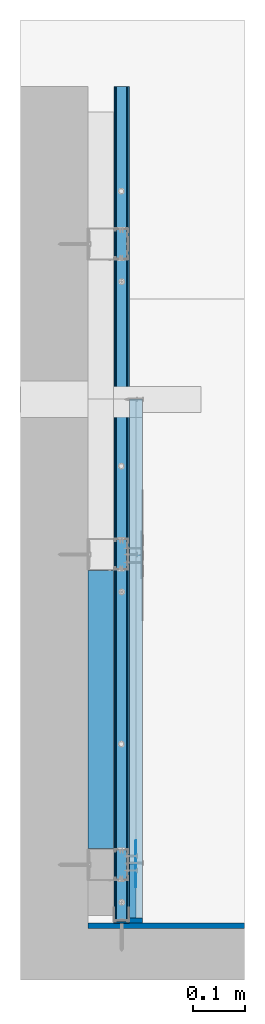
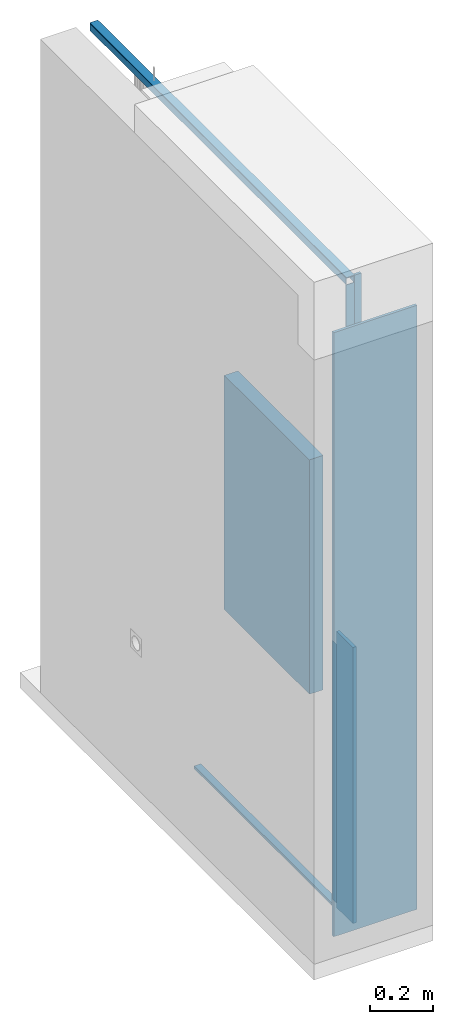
# One storey, part 2 of 61: 9 walls.
"""IFC2X3 building model written with IfcOpenShell, lengths in millimetres."""

from ifc_helpers import new_model, si_unit, frame, origin_with_axes, place, context, subcontext, project, spatial, faceted_brep, material, type_object, element, save


model = new_model("IFC2X3")

# Units and contexts
model_context = context("Model", 3, world=origin_with_axes())
body_context = subcontext(model_context, "Body", "Model", "MODEL_VIEW")
ifc_project = project(units=[si_unit("LENGTHUNIT", "METRE", prefix="MILLI"), si_unit("AREAUNIT", "SQUARE_METRE"), si_unit("VOLUMEUNIT", "CUBIC_METRE")], contexts=[model_context])

# Site, building, storey
site_placement = place(None, frame((2152.1410261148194, -2015.0250894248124, 57.61556563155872), z_axis=(0.0, 0.0, 1.0), x_axis=(-1.1102230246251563e-16, 1.0, 0.0)))
site = spatial("IfcSite", under=ifc_project, at=site_placement, Name="Default Site", CompositionType="ELEMENT")
building_placement = place(site_placement, origin_with_axes())
building = spatial("IfcBuilding", under=site, at=building_placement, Name="Default Building", CompositionType="ELEMENT")
storey_placement = place(building_placement, origin_with_axes())
storey = spatial("IfcBuildingStorey", under=building, at=storey_placement, Name="Default Building Storey", CompositionType="ELEMENT", Elevation=57.61556563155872)

# Walls
ifc_material_1 = material(Name="Undefined13")
wall_type_1 = type_object("IfcWallType", Name="Taśma uszczelniająca piankowa RIGIPS#3", PredefinedType="NOTDEFINED")
wall_1_placement = place(storey_placement, frame((5610.165077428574, 472.86029412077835, 2631.359020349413), z_axis=(6.092619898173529e-14, 6.866451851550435e-13, -1.0), x_axis=(-1.0, -2.0134422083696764e-15, -6.092619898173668e-14)))
element("IfcWall", 1, at=wall_1_placement, inside=storey, type_object=wall_type_1, material=ifc_material_1, Name="Taśma uszczelniająca piankowa RIGIPS", context=body_context, shape_type="Brep", body=[
    faceted_brep([(1867.1244382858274, 1498.965978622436, 113.97500336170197), (1867.1244382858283, 1498.9659786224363, 110.9749972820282), (1867.1244382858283, 1468.966007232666, 110.9749972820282), (1867.1244382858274, 1468.9660072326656, 113.97500336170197), (3487.5264937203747, 1498.9659786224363, 110.9749972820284), (3487.5264937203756, 1498.965978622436, 113.97500336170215), (3487.5264937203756, 1468.9660072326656, 113.97500336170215), (3487.5264937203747, 1468.9660072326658, 110.9749972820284)], [[[0, 1, 2, 3]], [[4, 5, 6, 7]], [[5, 0, 3, 6]], [[6, 3, 2, 7]], [[7, 2, 1, 4]], [[4, 1, 0, 5]]]),
])
ifc_material_2 = material(Name="M04_Stone_Frost")
wall_type_2 = type_object("IfcWallType", Name="Ściana#1", PredefinedType="NOTDEFINED")
wall_2_placement = place(storey_placement, frame((2128.0250889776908, 2049.1410261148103, 2536.3944176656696), z_axis=(-1.0, 7.216449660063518e-16, 8.326672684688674e-17), x_axis=(8.326672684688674e-17, -4.622231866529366e-32, 1.0)))
element("IfcWall", 2, at=wall_2_placement, inside=storey, type_object=wall_type_2, material=ifc_material_2, Name="Ściana", context=body_context, shape_type="Brep", body=[
    faceted_brep([(-205.99998329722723, -27.00014305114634, 3.0000004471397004), (-205.99998329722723, -27.00014305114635, 12.999999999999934), (-205.99998329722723, -330.0000000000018, 12.99999999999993), (-205.99998329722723, -330.0000000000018, 3.0000004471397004), (-2534.0103917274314, -27.00014305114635, 12.999999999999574), (-2534.0103917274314, -27.00014305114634, 3.000000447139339), (-2534.0103917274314, -330.0000000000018, 3.0000004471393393), (-2534.0103917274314, -330.0000000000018, 12.999999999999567)], [[[0, 1, 2, 3]], [[4, 5, 6, 7]], [[1, 0, 5, 4]], [[2, 1, 4, 7]], [[3, 2, 7, 6]], [[0, 3, 6, 5]]]),
])
wall_type_3 = type_object("IfcWallType", Name="Taśma uszczelniająca piankowa RIGIPS#4", PredefinedType="NOTDEFINED")
wall_3_placement = place(storey_placement, frame((2014.0500912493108, 472.8602941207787, 3492.910522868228), z_axis=(1.0, 6.860037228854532e-13, 6.150635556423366e-14), x_axis=(6.150635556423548e-14, -2.646298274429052e-15, -1.0)))
element("IfcWall", 3, at=wall_3_placement, inside=storey, type_object=wall_type_3, material=ifc_material_1, Name="Taśma uszczelniająca piankowa RIGIPS", context=body_context, shape_type="Brep", body=[
    faceted_brep([(1002.5265009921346, 1498.9659786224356, 113.97500336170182), (1002.5265009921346, 1498.9659786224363, 110.97499728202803), (1002.526500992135, 1468.9660072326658, 110.97499728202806), (1002.5265009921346, 1468.966007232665, 113.97500336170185), (3487.5264937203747, 1498.9659786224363, 110.97499728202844), (3487.5264937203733, 1498.9659786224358, 113.97500336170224), (3487.526493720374, 1468.9660072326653, 113.97500336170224), (3487.5264937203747, 1468.9660072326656, 110.97499728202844)], [[[0, 1, 2, 3]], [[4, 5, 6, 7]], [[5, 0, 3, 6]], [[6, 3, 2, 7]], [[7, 2, 1, 4]], [[4, 1, 0, 5]]]),
])
ifc_material_3 = material(Name="Undefined9")
wall_type_4 = type_object("IfcWallType", Name="Profil RIGIPS UD 30 GypSerra®/Ultrastil®#1", PredefinedType="NOTDEFINED")
wall_4_placement = place(storey_placement, frame((5248.130911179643, 472.86020596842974, 2631.3590203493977), z_axis=(6.092619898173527e-14, 6.866451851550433e-13, -1.0), x_axis=(-1.0, -2.0134422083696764e-15, -6.092619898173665e-14)))
element("IfcWall", 4, at=wall_4_placement, inside=storey, type_object=wall_type_4, material=ifc_material_3, Name="Profil RIGIPS UD 30 GypSerra®/Ultrastil®", context=body_context, shape_type="Brep", body=[
    faceted_brep([(3123.1058226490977, 1469.9159860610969, 140.97499847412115), (3123.1058226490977, 1469.3660736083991, 140.97499847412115), (3123.105822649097, 1469.3660736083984, 114.77500200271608), (3123.1058226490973, 1469.3758487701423, 114.64985460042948), (3123.105822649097, 1469.4051742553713, 114.52778428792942), (3123.105822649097, 1469.4532155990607, 114.41180855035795), (3123.105822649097, 1469.5187807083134, 114.30477350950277), (3123.105822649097, 1469.6003198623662, 114.20931667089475), (3123.1058226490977, 1469.6958065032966, 114.12778496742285), (3123.1058226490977, 1469.8028564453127, 114.06219750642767), (3123.1058226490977, 1469.9188470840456, 114.01415616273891), (3123.1058226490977, 1470.0409173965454, 113.98485302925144), (3123.1058226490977, 1470.166087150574, 113.97500336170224), (3123.1058226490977, 1472.015976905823, 113.97500336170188), (3123.1058226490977, 1472.1635580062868, 113.98871988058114), (3123.1058226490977, 1472.3060131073, 114.02940750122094), (3123.1058226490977, 1472.438573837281, 114.09565806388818), (3123.105822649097, 1472.5565910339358, 114.18521404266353), (3123.1058226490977, 1472.6560115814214, 114.29499834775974), (3123.1058226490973, 1473.676085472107, 115.6549975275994), (3123.1058226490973, 1473.7755060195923, 115.76478183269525), (3123.1058226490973, 1473.8935232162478, 115.85433781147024), (3123.1058226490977, 1474.026083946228, 115.92059582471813), (3123.1058226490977, 1474.1685390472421, 115.96128344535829), (3123.1058226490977, 1474.3160009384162, 115.97499996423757), (3123.1058226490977, 1493.6159849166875, 115.9749999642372), (3123.1058226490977, 1493.7635660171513, 115.96128344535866), (3123.1058226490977, 1493.9060211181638, 115.92059582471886), (3123.1058226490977, 1494.0385818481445, 115.85433781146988), (3123.1058226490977, 1494.1565990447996, 115.7647818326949), (3123.1058226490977, 1494.256019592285, 115.65499752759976), (3123.1058226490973, 1495.2759742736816, 114.29499834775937), (3123.1058226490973, 1495.3755140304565, 114.1852140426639), (3123.1058226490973, 1495.4935312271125, 114.09565806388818), (3123.1058226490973, 1495.6260919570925, 114.02940750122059), (3123.1058226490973, 1495.7685470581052, 113.98871988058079), (3123.1058226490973, 1495.91600894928, 113.97500336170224), (3123.1058226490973, 1497.7660179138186, 113.97500336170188), (3123.1058226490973, 1497.8911876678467, 113.98485302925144), (3123.1058226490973, 1498.0132579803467, 114.01415616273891), (3123.1058226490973, 1498.1292486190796, 114.06219750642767), (3123.1058226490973, 1498.2362985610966, 114.12778496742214), (3123.1058226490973, 1498.331665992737, 114.20931667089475), (3123.1058226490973, 1498.4132051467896, 114.30477350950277), (3123.1058226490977, 1498.4788894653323, 114.41180855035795), (3123.1058226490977, 1498.5269308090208, 114.52778428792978), (3123.1058226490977, 1498.5561370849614, 114.64985460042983), (3123.1058226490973, 1498.5660314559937, 114.77500200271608), (3123.1058226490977, 1498.5660314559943, 140.97499847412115), (3123.1058226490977, 1498.0159997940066, 140.97499847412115), (3123.1058226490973, 1498.0159997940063, 114.77500200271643), (3123.1058226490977, 1498.012900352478, 114.73589390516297), (3123.1058226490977, 1498.0038404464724, 114.69774693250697), (3123.1058226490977, 1497.9888200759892, 114.66149985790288), (3123.1058226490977, 1497.9683160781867, 114.62805420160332), (3123.1058226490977, 1497.9428052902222, 114.59822207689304), (3123.1058226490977, 1497.9130029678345, 114.57274854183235), (3123.1058226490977, 1497.8795051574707, 114.55225199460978), (3123.1058226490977, 1497.8432655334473, 114.53723907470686), (3123.1058226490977, 1497.805118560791, 114.52807486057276), (3123.1058226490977, 1497.7660179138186, 114.52499777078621), (3123.1058226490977, 1495.91600894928, 114.52499777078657), (3123.1058226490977, 1495.8698749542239, 114.5292893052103), (3123.1058226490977, 1495.8254098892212, 114.54199999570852), (3123.1058226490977, 1495.784044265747, 114.5627051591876), (3123.1058226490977, 1495.7470893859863, 114.59068953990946), (3123.1058226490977, 1495.7159757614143, 114.62499946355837), (3123.1058226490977, 1494.6960210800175, 115.9849986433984), (3123.1058226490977, 1494.5281744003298, 116.17025732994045), (3123.1058226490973, 1494.3289756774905, 116.32138490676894), (3123.1058226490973, 1494.105339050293, 116.43319576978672), (3123.1058226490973, 1493.8650131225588, 116.5018528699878), (3123.1058226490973, 1493.615984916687, 116.52500182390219), (3123.1058226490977, 1474.316000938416, 116.52500182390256), (3123.1058226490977, 1474.0670919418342, 116.50185286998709), (3123.1058226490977, 1473.8266468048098, 116.43319576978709), (3123.1058226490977, 1473.6031293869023, 116.32138490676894), (3123.1058226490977, 1473.403930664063, 116.17025732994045), (3123.1058226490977, 1473.236083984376, 115.9849986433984), (3123.105822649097, 1472.2160100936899, 114.62499946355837), (3123.105822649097, 1472.1848964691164, 114.59068953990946), (3123.105822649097, 1472.1480607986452, 114.5627051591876), (3123.105822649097, 1472.1066951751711, 114.54199999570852), (3123.105822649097, 1472.0621109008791, 114.52928930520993), (3123.105822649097, 1472.015976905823, 114.52499777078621), (3123.105822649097, 1470.166087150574, 114.52499777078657), (3123.105822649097, 1470.1268672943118, 114.52807486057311), (3123.105822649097, 1470.0887203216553, 114.53723907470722), (3123.105822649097, 1470.0524806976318, 114.55225199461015), (3123.105822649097, 1470.0191020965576, 114.572748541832), (3123.105822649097, 1469.98929977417, 114.59822207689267), (3123.1058226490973, 1469.9637889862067, 114.62805420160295), (3123.1058226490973, 1469.9432849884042, 114.66149985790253), (3123.1058226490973, 1469.9282646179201, 114.6977469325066), (3123.1058226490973, 1469.919085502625, 114.73589390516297), (3123.105822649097, 1469.9159860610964, 114.77500200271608), (1505.0902720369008, 1469.3660736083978, 114.775002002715), (1505.090272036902, 1469.3660736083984, 140.97499847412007), (1505.090272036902, 1469.9159860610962, 140.97499847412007), (1505.0902720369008, 1469.9159860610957, 114.775002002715), (1505.0902720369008, 1469.919085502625, 114.73589390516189), (1505.0902720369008, 1469.9282646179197, 114.69774693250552), (1505.0902720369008, 1469.9432849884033, 114.66149985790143), (1505.0902720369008, 1469.963788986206, 114.62805420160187), (1505.0902720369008, 1469.989299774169, 114.59822207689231), (1505.0902720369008, 1470.0191020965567, 114.57274854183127), (1505.0902720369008, 1470.052480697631, 114.55225199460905), (1505.0902720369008, 1470.0887203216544, 114.53723907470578), (1505.0902720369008, 1470.1268672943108, 114.52807486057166), (1505.0902720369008, 1470.166087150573, 114.52499777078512), (1505.0902720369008, 1472.015976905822, 114.52499777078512), (1505.0902720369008, 1472.0621109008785, 114.5292893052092), (1505.0902720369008, 1472.1066951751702, 114.5419999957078), (1505.0902720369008, 1472.148060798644, 114.56270515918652), (1505.0902720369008, 1472.1848964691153, 114.59068953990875), (1505.0902720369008, 1472.2160100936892, 114.62499946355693), (1505.090272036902, 1473.236083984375, 115.98499864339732), (1505.090272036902, 1473.4039306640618, 116.1702573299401), (1505.0902720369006, 1473.603129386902, 116.32138490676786), (1505.0902720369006, 1473.826646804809, 116.43319576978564), (1505.0902720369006, 1474.0670919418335, 116.50185286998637), (1505.0902720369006, 1474.3160009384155, 116.5250018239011), (1505.0902720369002, 1493.615984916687, 116.5250018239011), (1505.0902720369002, 1493.8650131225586, 116.50185286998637), (1505.0902720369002, 1494.1053390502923, 116.43319576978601), (1505.0902720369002, 1494.3289756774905, 116.32138490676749), (1505.0902720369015, 1494.528174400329, 116.17025732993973), (1505.0902720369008, 1494.696021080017, 115.98499864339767), (1505.0902720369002, 1495.7159757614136, 114.62499946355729), (1505.0902720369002, 1495.7470893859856, 114.59068953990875), (1505.0902720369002, 1495.7840442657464, 114.56270515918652), (1505.0902720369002, 1495.8254098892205, 114.5419999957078), (1505.0902720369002, 1495.869874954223, 114.52928930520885), (1505.0902720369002, 1495.916008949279, 114.52499777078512), (1505.0902720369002, 1497.7660179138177, 114.52499777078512), (1505.0902720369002, 1497.8051185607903, 114.52807486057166), (1505.0902720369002, 1497.8432655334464, 114.5372390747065), (1505.0902720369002, 1497.8795051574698, 114.55225199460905), (1505.0902720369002, 1497.9130029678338, 114.57274854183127), (1505.0902720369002, 1497.9428052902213, 114.59822207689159), (1505.0902720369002, 1497.968316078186, 114.62805420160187), (1505.0902720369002, 1497.9888200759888, 114.66149985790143), (1505.0902720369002, 1498.0038404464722, 114.69774693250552), (1505.0902720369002, 1498.012900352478, 114.73589390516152), (1505.0902720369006, 1498.0159997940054, 114.775002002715), (1505.0902720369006, 1498.0159997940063, 140.97499847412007), (1505.0902720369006, 1498.5660314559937, 140.97499847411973), (1505.0902720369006, 1498.566031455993, 114.775002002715), (1505.0902720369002, 1498.556137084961, 114.6498546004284), (1505.0902720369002, 1498.52693080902, 114.52778428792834), (1505.0902720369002, 1498.478889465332, 114.41180855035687), (1505.0902720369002, 1498.4132051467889, 114.30477350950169), (1505.0902720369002, 1498.331665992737, 114.20931667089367), (1505.0902720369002, 1498.236298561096, 114.12778496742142), (1505.0902720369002, 1498.129248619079, 114.06219750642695), (1505.0902720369, 1498.013257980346, 114.01415616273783), (1505.0902720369, 1497.8911876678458, 113.98485302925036), (1505.0902720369, 1497.7660179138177, 113.97500336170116), (1505.0902720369, 1495.916008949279, 113.97500336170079), (1505.0902720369, 1495.7685470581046, 113.98871988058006), (1505.0902720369, 1495.6260919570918, 114.02940750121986), (1505.0902720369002, 1495.4935312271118, 114.09565806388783), (1505.0902720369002, 1495.3755140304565, 114.18521404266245), (1505.0902720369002, 1495.275974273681, 114.29499834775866), (1505.0902720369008, 1494.2560195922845, 115.65499752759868), (1505.0902720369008, 1494.1565990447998, 115.76478183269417), (1505.0902720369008, 1494.0385818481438, 115.85433781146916), (1505.0902720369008, 1493.9060211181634, 115.92059582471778), (1505.0902720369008, 1493.7635660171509, 115.96128344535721), (1505.0902720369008, 1493.615984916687, 115.97499996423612), (1505.090272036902, 1474.3160009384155, 115.97499996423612), (1505.090272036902, 1474.1685390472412, 115.96128344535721), (1505.090272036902, 1474.0260839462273, 115.92059582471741), (1505.090272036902, 1473.8935232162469, 115.8543378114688), (1505.090272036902, 1473.7755060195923, 115.76478183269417), (1505.090272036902, 1473.6760854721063, 115.65499752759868), (1505.0902720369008, 1472.6560115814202, 114.29499834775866), (1505.0902720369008, 1472.5565910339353, 114.18521404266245), (1505.0902720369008, 1472.43857383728, 114.09565806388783), (1505.0902720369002, 1472.3060131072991, 114.0294075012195), (1505.0902720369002, 1472.1635580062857, 113.98871988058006), (1505.0902720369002, 1472.015976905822, 113.97500336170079), (1505.0902720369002, 1470.166087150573, 113.97500336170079), (1505.0902720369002, 1470.0409173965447, 113.98485302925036), (1505.0902720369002, 1469.9188470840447, 114.01415616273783), (1505.0902720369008, 1469.8028564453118, 114.06219750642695), (1505.0902720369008, 1469.695806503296, 114.12778496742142), (1505.0902720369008, 1469.600319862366, 114.2093166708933), (1505.0902720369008, 1469.5187807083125, 114.30477350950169), (1505.0902720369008, 1469.45321559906, 114.41180855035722), (1505.0902720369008, 1469.4051742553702, 114.5277842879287), (1505.0902720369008, 1469.3758487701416, 114.6498546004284)], [[[0, 1, 2, 3, 4, 5, 6, 7, 8, 9, 10, 11, 12, 13, 14, 15, 16, 17, 18, 19, 20, 21, 22, 23, 24, 25, 26, 27, 28, 29, 30, 31, 32, 33, 34, 35, 36, 37, 38, 39, 40, 41, 42, 43, 44, 45, 46, 47, 48, 49, 50, 51, 52, 53, 54, 55, 56, 57, 58, 59, 60, 61, 62, 63, 64, 65, 66, 67, 68, 69, 70, 71, 72, 73, 74, 75, 76, 77, 78, 79, 80, 81, 82, 83, 84, 85, 86, 87, 88, 89, 90, 91, 92, 93, 94, 95]], [[96, 97, 98, 99, 100, 101, 102, 103, 104, 105, 106, 107, 108, 109, 110, 111, 112, 113, 114, 115, 116, 117, 118, 119, 120, 121, 122, 123, 124, 125, 126, 127, 128, 129, 130, 131, 132, 133, 134, 135, 136, 137, 138, 139, 140, 141, 142, 143, 144, 145, 146, 147, 148, 149, 150, 151, 152, 153, 154, 155, 156, 157, 158, 159, 160, 161, 162, 163, 164, 165, 166, 167, 168, 169, 170, 171, 172, 173, 174, 175, 176, 177, 178, 179, 180, 181, 182, 183, 184, 185, 186, 187, 188, 189, 190, 191]], [[23, 171, 170, 24]], [[22, 172, 171, 23]], [[175, 174, 20, 19]], [[172, 22, 21, 173]], [[20, 174, 173, 21]], [[24, 170, 169, 25]], [[29, 165, 164, 30]], [[165, 29, 28, 166]], [[27, 167, 166, 28]], [[169, 168, 26, 25]], [[26, 168, 167, 27]], [[30, 164, 163, 31]], [[35, 159, 158, 36]], [[34, 160, 159, 35]], [[33, 32, 162, 161]], [[161, 160, 34, 33]], [[163, 162, 32, 31]], [[36, 158, 157, 37]], [[46, 45, 149, 148]], [[148, 147, 47, 46]], [[44, 150, 149, 45]], [[43, 42, 152, 151]], [[151, 150, 44, 43]], [[41, 40, 154, 153]], [[153, 152, 42, 41]], [[39, 155, 154, 40]], [[38, 37, 157, 156]], [[156, 155, 39, 38]], [[47, 147, 146, 48]], [[48, 146, 145, 49]], [[49, 145, 144, 50]], [[134, 60, 59, 135]], [[58, 136, 135, 59]], [[57, 137, 136, 58]], [[137, 57, 56, 138]], [[55, 139, 138, 56]], [[139, 55, 54, 140]], [[53, 141, 140, 54]], [[52, 142, 141, 53]], [[142, 52, 51, 143]], [[50, 144, 143, 51]], [[60, 134, 133, 61]], [[65, 129, 128, 66]], [[129, 65, 64, 130]], [[63, 131, 130, 64]], [[133, 132, 62, 61]], [[62, 132, 131, 63]], [[66, 128, 127, 67]], [[71, 123, 122, 72]], [[70, 69, 125, 124]], [[124, 123, 71, 70]], [[68, 126, 125, 69]], [[127, 126, 68, 67]], [[72, 122, 121, 73]], [[77, 117, 116, 78]], [[76, 118, 117, 77]], [[75, 74, 120, 119]], [[119, 118, 76, 75]], [[121, 120, 74, 73]], [[78, 116, 115, 79]], [[83, 111, 110, 84]], [[82, 112, 111, 83]], [[115, 114, 80, 79]], [[112, 82, 81, 113]], [[80, 114, 113, 81]], [[84, 110, 109, 85]], [[99, 95, 94, 100]], [[93, 101, 100, 94]], [[92, 102, 101, 93]], [[102, 92, 91, 103]], [[90, 104, 103, 91]], [[104, 90, 89, 105]], [[88, 106, 105, 89]], [[87, 107, 106, 88]], [[107, 87, 86, 108]], [[85, 109, 108, 86]], [[95, 99, 98, 0]], [[0, 98, 97, 1]], [[1, 97, 96, 2]], [[11, 10, 184, 183]], [[183, 182, 12, 11]], [[9, 185, 184, 10]], [[6, 5, 189, 188]], [[7, 6, 188, 187]], [[8, 7, 187, 186]], [[186, 185, 9, 8]], [[4, 190, 189, 5]], [[3, 2, 96, 191]], [[191, 190, 4, 3]], [[12, 182, 181, 13]], [[17, 177, 176, 18]], [[16, 15, 179, 178]], [[178, 177, 17, 16]], [[14, 180, 179, 15]], [[181, 180, 14, 13]], [[18, 176, 175, 19]]]),
])
ifc_material_4 = material(Name="Undefined5")
wall_type_5 = type_object("IfcWallType", Name="Masa szpachlowa konstrukcyjna RIGIPS#1", PredefinedType="NOTDEFINED")
wall_5_placement = place(storey_placement, frame((2372.7185868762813, 1940.8262477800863, 2.3840259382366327), z_axis=(0.0, 0.0, 1.0), x_axis=(-1.0, -1.665334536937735e-16, 0.0)))
element("IfcWall", 5, at=wall_5_placement, inside=storey, type_object=wall_type_5, material=ifc_material_4, Name="Masa szpachlowa konstrukcyjna RIGIPS", context=body_context, shape_type="Brep", body=[
    faceted_brep([(237.6891057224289, 24.64617043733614, -5.639932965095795e-14), (237.6891057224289, -0.3499999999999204, -5.639932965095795e-14), (-765.3184921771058, -0.35000000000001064, -5.639932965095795e-14), (-765.3184921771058, 24.646170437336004, -5.639932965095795e-14), (237.6891057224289, -0.3499999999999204, 10.00439262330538), (-765.3184921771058, -0.35000000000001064, 10.00439262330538), (237.6891057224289, 24.64617043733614, 10.00439262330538), (-765.3184921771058, 24.646170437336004, 10.00439262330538)], [[[0, 1, 2, 3]], [[1, 4, 5, 2]], [[4, 6, 7, 5]], [[6, 0, 3, 7]], [[7, 3, 2, 5]], [[0, 6, 4, 1]]]),
])
wall_type_6 = type_object("IfcWallType", Name="Masa szpachlowa konstrukcyjna RIGIPS#5", PredefinedType="NOTDEFINED")
wall_6_placement = place(storey_placement, frame((2135.029481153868, 1940.826247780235, 235.27306068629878), z_axis=(-1.0, 6.389333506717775e-13, -4.718447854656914e-16), x_axis=(4.718447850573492e-16, -6.390998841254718e-13, -1.0)))
element("IfcWall", 6, at=wall_6_placement, inside=storey, type_object=wall_type_6, material=ifc_material_4, Name="Masa szpachlowa konstrukcyjna RIGIPS", context=body_context, shape_type="Brep", body=[
    faceted_brep([(232.8890347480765, 24.64617043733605, -4.511946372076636e-14), (232.8890347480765, -0.3499999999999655, -4.511946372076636e-14), (-2282.1213736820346, -0.3499999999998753, -6.767919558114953e-14), (-2282.1213736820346, 24.64617043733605, -6.767919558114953e-14), (232.8890347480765, -0.3499999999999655, 10.00439262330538), (-2282.1213736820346, -0.3499999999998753, 10.00439262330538), (232.8890347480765, 24.64617043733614, 10.00439262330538), (-2282.1213736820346, 24.646170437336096, 10.00439262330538)], [[[0, 1, 2, 3]], [[1, 4, 5, 2]], [[4, 6, 7, 5]], [[6, 0, 3, 7]], [[7, 3, 2, 5]], [[0, 6, 4, 1]]]),
])
wall_type_7 = type_object("IfcWallType", Name="Masa szpachlowa konstrukcyjna RIGIPS#4", PredefinedType="NOTDEFINED")
wall_7_placement = place(storey_placement, frame((2976.8888650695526, 5319.236799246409, 609.5900398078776), z_axis=(0.0, 0.0, 1.0), x_axis=(1.0, 0.0, 0.0)))
element("IfcWall", 7, at=wall_7_placement, inside=storey, type_object=wall_type_7, material=ifc_material_4, Name="Masa szpachlowa konstrukcyjna RIGIPS", context=body_context, shape_type="Brep", body=[
    faceted_brep([(-737.5571131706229, -3387.974739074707, 400.79997777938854), (-737.6772165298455, -3388.2646560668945, 400.79997777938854), (-737.8411889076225, -3388.532400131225, 400.79997777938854), (-738.0449771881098, -3388.770818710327, 400.79997777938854), (-738.2836341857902, -3388.9746665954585, 400.79997777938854), (-738.551259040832, -3389.138698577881, 400.79997777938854), (-738.8411760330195, -3389.258861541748, 400.79997777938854), (-739.1463518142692, -3389.3320560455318, 400.79997777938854), (-739.4592165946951, -3389.3566131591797, 400.79997777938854), (-782.4591994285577, -3389.3566131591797, 400.79997777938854), (-782.4591994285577, -3390.556812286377, 400.79997777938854), (-691.4592385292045, -3390.556812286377, 400.79997777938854), (-692.4592256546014, -3389.3566131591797, 400.79997777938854), (-735.4592084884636, -3389.3566131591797, 400.79997777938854), (-735.7720732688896, -3389.3320560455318, 400.79997777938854), (-736.0772490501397, -3389.258861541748, 400.79997777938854), (-736.367225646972, -3389.138698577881, 400.79997777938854), (-736.6347908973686, -3388.9746665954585, 400.79997777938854), (-736.8734478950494, -3388.770818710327, 400.79997777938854), (-737.0772361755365, -3388.532400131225, 400.79997777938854), (-737.2412085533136, -3388.2646560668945, 400.79997777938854), (-737.3613119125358, -3387.974739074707, 400.79997777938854), (-737.4345660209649, -3387.669563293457, 400.79997777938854), (-737.4592423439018, -3387.356758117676, 400.79997777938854), (-737.4838590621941, -3387.669563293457, 400.79997777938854), (-782.4591994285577, -3390.556812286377, -597.2015808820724), (-782.4591994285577, -3389.3566131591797, -597.2015808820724), (-739.4592165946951, -3389.3566131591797, -597.2015808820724), (-739.1463518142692, -3389.3320560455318, -597.2015808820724), (-738.8411760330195, -3389.258861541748, -597.2015808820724), (-738.551259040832, -3389.138698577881, -597.2015808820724), (-738.2836341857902, -3388.9746665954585, -597.2015808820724), (-738.0449771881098, -3388.770818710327, -597.2015808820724), (-737.8411889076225, -3388.532400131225, -597.2015808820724), (-737.6772165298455, -3388.2646560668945, -597.2015808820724), (-737.5571131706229, -3387.974739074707, -597.2015808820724), (-737.4838590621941, -3387.669563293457, -597.2015808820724), (-737.4592423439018, -3387.356758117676, -597.2015808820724), (-737.4345660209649, -3387.669563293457, -597.2015808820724), (-737.3613119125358, -3387.974739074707, -597.2015808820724), (-737.2412085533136, -3388.2646560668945, -597.2015808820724), (-737.0772361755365, -3388.532400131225, -597.2015808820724), (-736.8734478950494, -3388.770818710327, -597.2015808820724), (-736.6347908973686, -3388.9746665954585, -597.2015808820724), (-736.367225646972, -3389.138698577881, -597.2015808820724), (-736.0772490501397, -3389.258861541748, -597.2015808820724), (-735.7720732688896, -3389.3320560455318, -597.2015808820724), (-735.4592084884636, -3389.3566131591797, -597.2015808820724), (-692.4592256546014, -3389.3566131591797, -597.2015808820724), (-691.4592385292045, -3390.556812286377, -597.2015808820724)], [[[0, 1, 2, 3, 4, 5, 6, 7, 8, 9, 10, 11, 12, 13, 14, 15, 16, 17, 18, 19, 20, 21, 22, 23, 24]], [[25, 26, 27, 28, 29, 30, 31, 32, 33, 34, 35, 36, 37, 38, 39, 40, 41, 42, 43, 44, 45, 46, 47, 48, 49]], [[13, 12, 48, 47]], [[15, 14, 46, 45]], [[14, 13, 47, 46]], [[16, 15, 45, 44]], [[18, 17, 43, 42]], [[17, 16, 44, 43]], [[40, 20, 19, 41]], [[36, 24, 23, 37]], [[48, 12, 11, 49]], [[7, 6, 29, 28]], [[9, 8, 27, 26]], [[5, 4, 31, 30]], [[41, 19, 18, 42]], [[35, 0, 24, 36]], [[33, 2, 1, 34]], [[38, 22, 21, 39]], [[32, 3, 2, 33]], [[37, 23, 22, 38]], [[39, 21, 20, 40]], [[4, 3, 32, 31]], [[34, 1, 0, 35]], [[8, 7, 28, 27]], [[25, 10, 9, 26]], [[6, 5, 30, 29]], [[25, 49, 11, 10]]]),
])
ifc_material_5 = material(Name="Undefined7")
wall_type_8 = type_object("IfcWallType", Name="Płyta gipsowo-kartonowa RIGIPS PRO (4PRO™)#2", PredefinedType="NOTDEFINED")
wall_8_placement = place(storey_placement, frame((1039.398529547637, 1941.1800775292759, 1162.390039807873), z_axis=(0.0, 0.0, 1.0), x_axis=(1.0, 0.0, 0.0)))
element("IfcWall", 8, at=wall_8_placement, inside=storey, type_object=wall_type_8, material=ifc_material_5, Name="Płyta gipsowo-kartonowa RIGIPS PRO (4PRO™)", context=body_context, shape_type="Brep", body=[
    faceted_brep([(1199.8660564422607, -10.999999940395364, -1150.001525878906), (1199.9659538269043, -10.758819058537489, -1150.001525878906), (1199.9659538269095, -10.75881905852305, -85.99999999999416), (1199.8660564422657, -10.999999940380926, -85.99999999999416), (1199.7071504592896, -11.207106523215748, -1150.001525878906), (1199.7071504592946, -11.20710652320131, -85.99999999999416), (1199.4999647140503, -11.366025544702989, -1150.001525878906), (1199.4999647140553, -11.36602554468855, -85.99999999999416), (1199.2588043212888, -11.465925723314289, -1150.001525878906), (1199.2588043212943, -11.46592572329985, -85.99999999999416), (1199.000000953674, -11.500000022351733, -1150.001525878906), (1199.0000009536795, -11.500000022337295, -85.99999999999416), (1159.000039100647, -11.500000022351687, -1150.001525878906), (1159.0000391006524, -11.500000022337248, -85.99999999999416), (1154.9999713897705, -12.500000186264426, -1150.001525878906), (1154.999971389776, -12.500000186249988, -85.99999999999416), (1095.630951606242, -12.500000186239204, -85.99999999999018), (1095.6309516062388, -12.500000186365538, -1150.0015258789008), (1200.0000476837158, 0.0, -1150.001525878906), (1095.6309516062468, -0.0019148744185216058, -1150.0015258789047), (1095.63095160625, -0.0019148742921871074, -85.99999999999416), (1200.0000476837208, 1.4438228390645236e-11, -85.99999999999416), (1200.0000476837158, -10.49999985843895, -1150.001525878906), (1200.0000476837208, -10.499999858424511, -85.99999999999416)], [[[0, 1, 2, 3]], [[4, 0, 3, 5]], [[6, 4, 5, 7]], [[8, 6, 7, 9]], [[10, 8, 9, 11]], [[12, 10, 11, 13]], [[14, 12, 13, 15]], [[16, 17, 14, 15]], [[18, 19, 20, 21]], [[22, 18, 21, 23]], [[1, 22, 23, 2]], [[0, 4, 6, 8, 10, 12, 14, 17, 19, 18, 22, 1]], [[21, 20, 16, 15, 13, 11, 9, 7, 5, 3, 2, 23]], [[16, 20, 19, 17]]]),
])
ifc_material_6 = material(Name="Undefined")
wall_type_9 = type_object("IfcWallType", Name="Wypełnienie z wełny mineralnej szklanej ISOVER#21", PredefinedType="NOTDEFINED")
wall_9_placement = place(storey_placement, frame((2102.576545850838, 5350.42414647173, 895.3595813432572), z_axis=(0.0, 0.0, 1.0), x_axis=(-1.0, 4.718447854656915e-16, 0.0)))
element("IfcWall", 9, at=wall_9_placement, inside=storey, type_object=wall_type_9, material=ifc_material_6, Name="Wypełnienie z wełny mineralnej szklanej ISOVER", context=body_context, shape_type="Brep", body=[
    faceted_brep([(-166.46054244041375, 3328.2832634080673, -51.71597384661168), (-166.4605424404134, 3378.2831687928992, -51.71597384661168), (-166.4605424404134, 3378.2831687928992, 851.5436077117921), (-166.46054244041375, 3328.2832634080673, 851.5436077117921), (-704.4605239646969, 3328.2832634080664, 851.5436077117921), (-704.4605239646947, 3378.283168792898, 851.5436077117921), (-704.4605239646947, 3378.283168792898, -51.71597384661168), (-704.4605239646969, 3328.2832634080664, -51.71597384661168)], [[[0, 1, 2, 3]], [[4, 5, 6, 7]], [[4, 3, 2, 5]]]),
    faceted_brep([(-704.4605239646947, 3378.283168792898, 851.5436077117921), (-166.4605424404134, 3378.2831687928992, 851.5436077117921), (-166.4605424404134, 3378.2831687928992, -51.71597384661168), (-704.4605239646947, 3378.283168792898, -51.71597384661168), (-166.46054244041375, 3328.2832634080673, -51.71597384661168), (-704.4605239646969, 3328.2832634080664, -51.71597384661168), (-166.46054244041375, 3328.2832634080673, 851.5436077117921), (-704.4605239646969, 3328.2832634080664, 851.5436077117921)], [[[0, 1, 2, 3]], [[3, 2, 4, 5]], [[5, 4, 6, 7]]]),
])

save(model, "model.ifc")
